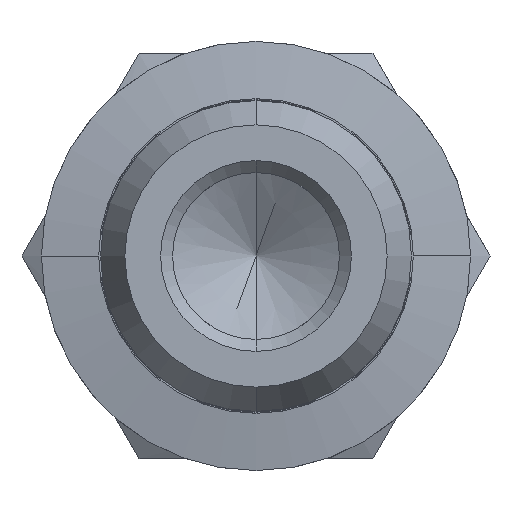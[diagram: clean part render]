
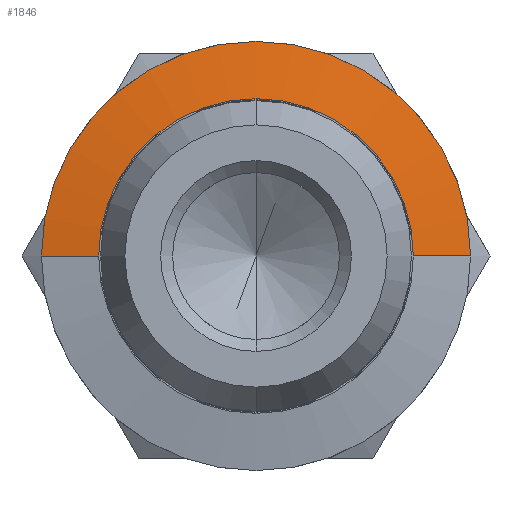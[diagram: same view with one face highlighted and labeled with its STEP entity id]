
A CAD part, front view. The second image highlights one B-rep face of the part: STEP entity #1846.
In plain terms, the highlighted conical face has half-angle 80.538 degrees and reference radius 6.6 mm.
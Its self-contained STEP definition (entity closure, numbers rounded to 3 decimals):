
#197 = DIRECTION ( 'NONE',  ( -0.986, 0.164, 0. ) ) ;
#210 = CARTESIAN_POINT ( 'NONE',  ( -6.6, 7.6, 0. ) ) ;
#216 = CARTESIAN_POINT ( 'NONE',  ( 6.6, 7.6, 0. ) ) ;
#218 = DIRECTION ( 'NONE',  ( 0.986, 0.164, 0. ) ) ;
#220 = CARTESIAN_POINT ( 'NONE',  ( 0., 7.6, 0. ) ) ;
#221 = DIRECTION ( 'NONE',  ( 0., -1., 0. ) ) ;
#222 = DIRECTION ( 'NONE',  ( 1., 0., 0. ) ) ;
#230 = CARTESIAN_POINT ( 'NONE',  ( 0., 8., 0. ) ) ;
#231 = DIRECTION ( 'NONE',  ( 0., -1., 0. ) ) ;
#232 = DIRECTION ( 'NONE',  ( 1., 0., 0. ) ) ;
#516 = AXIS2_PLACEMENT_3D ( 'NONE', #220, #221, #222 ) ;
#518 = AXIS2_PLACEMENT_3D ( 'NONE', #230, #231, #232 ) ;
#654 = CARTESIAN_POINT ( 'NONE',  ( 9., 8., 0. ) ) ;
#658 = CARTESIAN_POINT ( 'NONE',  ( -9., 8., 0. ) ) ;
#669 = CARTESIAN_POINT ( 'NONE',  ( -6.6, 7.6, 0. ) ) ;
#670 = CARTESIAN_POINT ( 'NONE',  ( 6.6, 7.6, 0. ) ) ;
#1428 = FACE_OUTER_BOUND ( 'NONE', #3934, .T. ) ;
#1436 = CONICAL_SURFACE ( 'NONE', #2539, 6.6, 1.406 ) ;
#1586 = ORIENTED_EDGE ( 'NONE', *, *, #4526, .F. ) ;
#1587 = ORIENTED_EDGE ( 'NONE', *, *, #4532, .T. ) ;
#1588 = ORIENTED_EDGE ( 'NONE', *, *, #4527, .T. ) ;
#1589 = ORIENTED_EDGE ( 'NONE', *, *, #4528, .F. ) ;
#1846 = ADVANCED_FACE ( 'NONE', ( #1428 ), #1436, .T. ) ;
#2232 = CIRCLE ( 'NONE', #516, 6.6 ) ;
#2234 = LINE ( 'NONE', #210, #2237 ) ;
#2236 = LINE ( 'NONE', #216, #2239 ) ;
#2237 = VECTOR ( 'NONE', #197, 1000. ) ;
#2239 = VECTOR ( 'NONE', #218, 1000. ) ;
#2244 = CIRCLE ( 'NONE', #518, 9. ) ;
#2539 = AXIS2_PLACEMENT_3D ( 'NONE', #3124, #3125, #3133 ) ;
#3124 = CARTESIAN_POINT ( 'NONE',  ( 0., 7.6, 0. ) ) ;
#3125 = DIRECTION ( 'NONE',  ( 0., 1., 0. ) ) ;
#3133 = DIRECTION ( 'NONE',  ( -1., 0., 0. ) ) ;
#3839 = VERTEX_POINT ( 'NONE', #654 ) ;
#3846 = VERTEX_POINT ( 'NONE', #658 ) ;
#3865 = VERTEX_POINT ( 'NONE', #669 ) ;
#3867 = VERTEX_POINT ( 'NONE', #670 ) ;
#3934 = EDGE_LOOP ( 'NONE', ( #1589, #1588, #1587, #1586 ) ) ;
#4526 = EDGE_CURVE ( 'NONE', #3865, #3846, #2234, .T. ) ;
#4527 = EDGE_CURVE ( 'NONE', #3867, #3839, #2236, .T. ) ;
#4528 = EDGE_CURVE ( 'NONE', #3867, #3865, #2232, .T. ) ;
#4532 = EDGE_CURVE ( 'NONE', #3839, #3846, #2244, .T. ) ;
